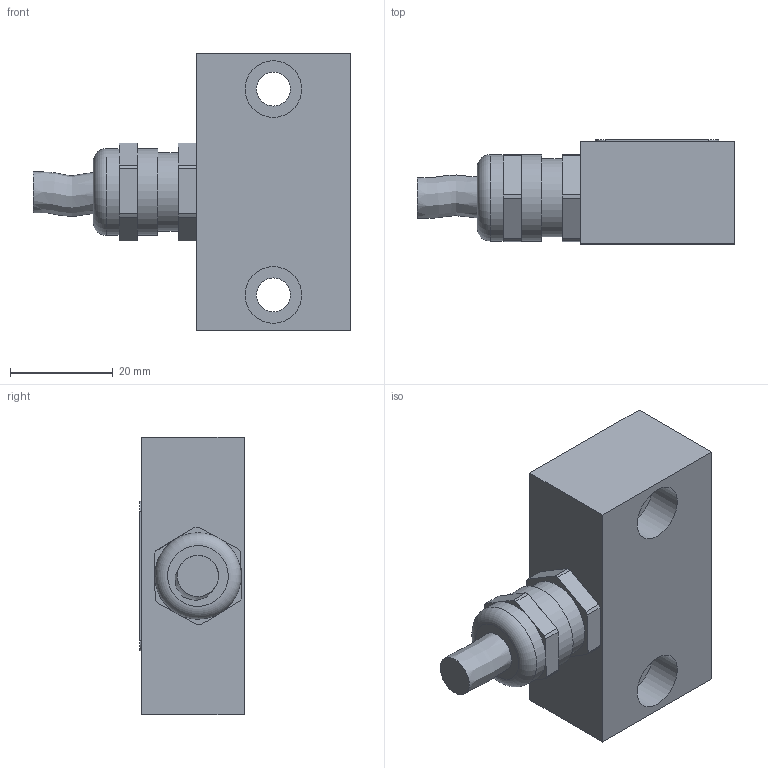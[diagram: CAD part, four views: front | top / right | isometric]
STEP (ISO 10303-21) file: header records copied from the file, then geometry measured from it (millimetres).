
FILE_DESCRIPTION(/* description */ ('Alibre Inc.'),/* implementation_level */ '2;1');
FILE_NAME(/* name */ 'export0',/* time_stamp */ '2010-11-08T17:40:30+01:00',/* author */ (''),/* organization */ (''),/* preprocessor_version */ 'ST-DEVELOPER v10',/* originating_system */ 'Alibre',/* authorisation */ '');
FILE_SCHEMA (('AUTOMOTIVE_DESIGN'));
Length unit declared in the file: centimetre
Bounding box: 61.64 x 20.3 x 54 mm (x, y, z)
Volume: 29315.5 mm3; surface area: 13861 mm2
Topology: 7 solids, 7 shells, 218 faces, 579 edges, 381 vertices
Faces by surface type: plane 162, cylinder 52, cone 2, torus 1, bspline 1
Full cylindrical faces by diameter (mm): 0.2 x5, 6.6 x2, 8 x1, 11 x2, 12 x1, 14.376 x1, 15.2 x2, 16.8 x2
Entity records: 6731 total; most frequent: CARTESIAN_POINT 1354, ORIENTED_EDGE 1108, DIRECTION 873, EDGE_CURVE 554, VECTOR 430, LINE 430, VERTEX_POINT 375, EDGE_LOOP 303
